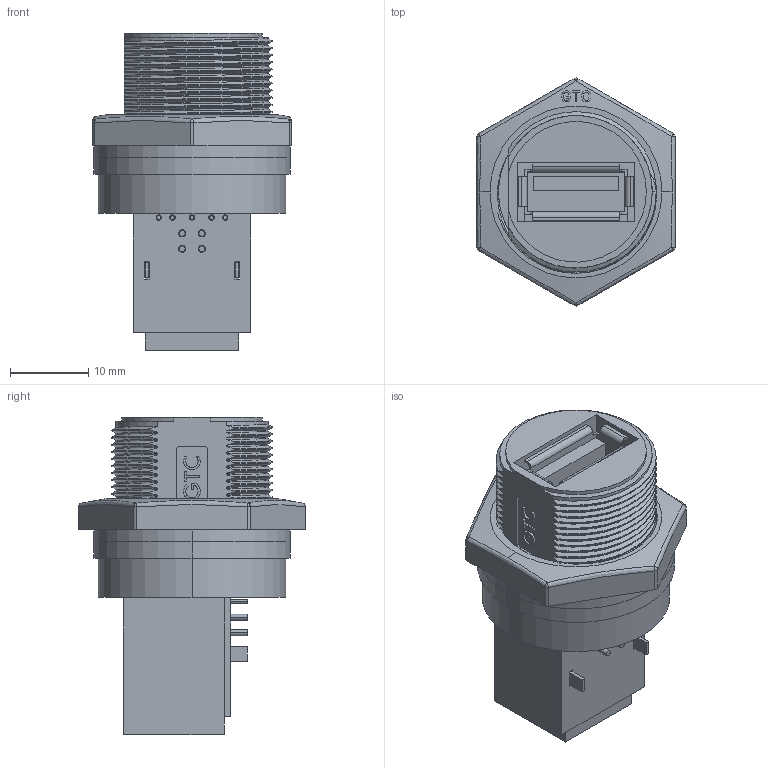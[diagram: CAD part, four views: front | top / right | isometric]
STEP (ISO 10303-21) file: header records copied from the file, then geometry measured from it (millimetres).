
FILE_DESCRIPTION (( 'STEP AP203' ), '1' );
FILE_NAME ('RR-118300-40.STEP', '2025-02-17T08:03:01', ( '' ), ( '' ), 'SwSTEP 2.0', 'SolidWorks 2019', '' );
FILE_SCHEMA (( 'CONFIG_CONTROL_DESIGN' ));
Products named in the file (1): RR-118300-40
Bounding box: 25.4 x 29.17 x 40.58 mm (x, y, z)
Volume: 8852.3 mm3; surface area: 9577.6 mm2
Topology: 3 solids, 3 shells, 621 faces, 1652 edges, 1080 vertices
Faces by surface type: plane 370, cylinder 148, bspline 81, sphere 13, cone 7, torus 2
Entity records: 44986 total; most frequent: CARTESIAN_POINT 30579, ORIENTED_EDGE 3288, DIRECTION 2519, EDGE_CURVE 1644, VERTEX_POINT 1078, LINE 945, VECTOR 945, AXIS2_PLACEMENT_3D 787
